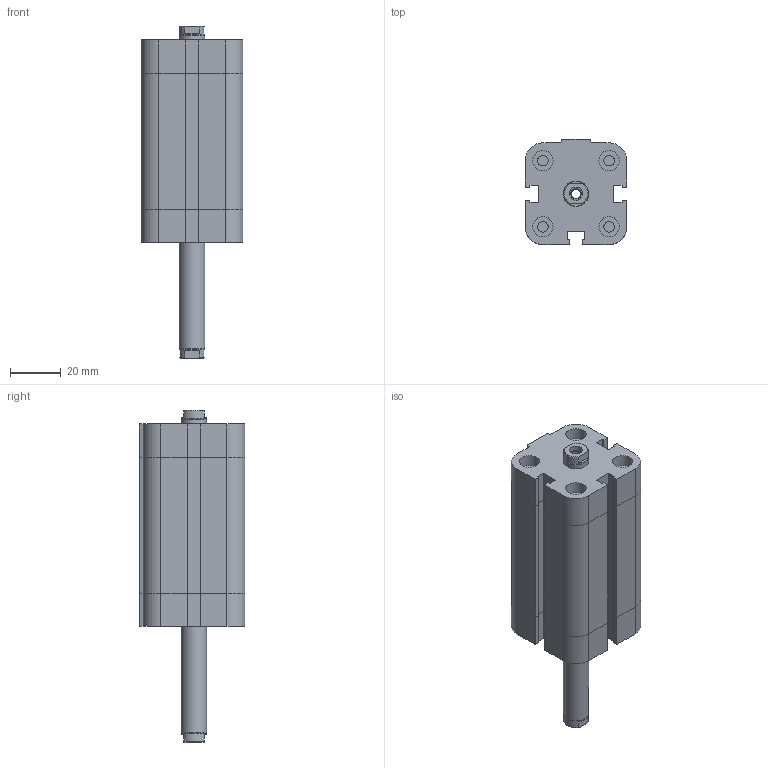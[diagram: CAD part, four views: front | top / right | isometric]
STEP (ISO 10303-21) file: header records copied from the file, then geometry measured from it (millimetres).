
FILE_DESCRIPTION((''),'2;1');
FILE_NAME('I:\Area Tecnica\Disegni\VARIE-3D\Componenti\EUROPE\15##_###_####_06_#\1581_25_0040_06_1.iam.stp','2009-04-20T15:09:14',(''),(''),'Autodesk Inventor 2009','Autodesk Inventor 2009','');
FILE_SCHEMA(('AUTOMOTIVE_DESIGN { 1 0 10303 214 1 1 1 1 }'));
Length unit declared in the file: millimetre
Products named in the file (3): 1581_25_0040_06_1; 1581_25_0040_03_1_C; 1561_25_0040_06_1_S
Assembly tree (2 placements, depth 2):
  1581_25_0040_06_1
    1581_25_0040_03_1_C
    1561_25_0040_06_1_S
Bounding box: 40 x 41.5 x 130.5 mm (x, y, z)
Volume: 116047.1 mm3; surface area: 29023.8 mm2
Topology: 2 solids, 2 shells, 175 faces, 382 edges, 233 vertices
Faces by surface type: plane 114, bspline 30, cylinder 25, cone 6
Full cylindrical faces by diameter (mm): 4.134 x5, 5.2 x1, 8 x4, 9.8 x2, 10 x1
Entity records: 4805 total; most frequent: CARTESIAN_POINT 1042, DIRECTION 712, ORIENTED_EDGE 680, EDGE_CURVE 340, VECTOR 252, LINE 252, AXIS2_PLACEMENT_3D 230, EDGE_LOOP 230
